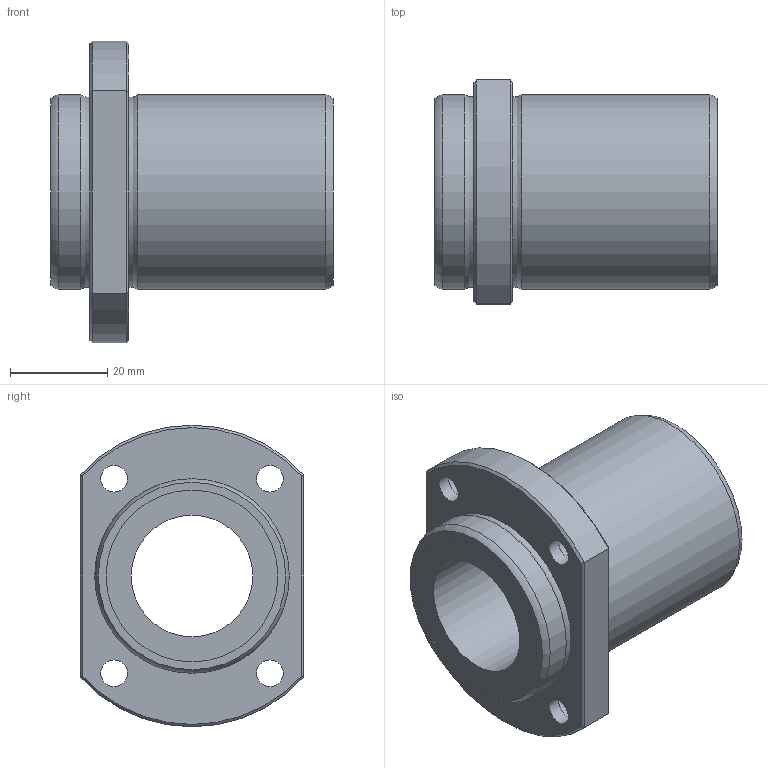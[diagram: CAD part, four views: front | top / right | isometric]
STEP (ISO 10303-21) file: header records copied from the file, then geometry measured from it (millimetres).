
FILE_DESCRIPTION((''),'2;1');
FILE_NAME('D:\製品 (図面)\カタログ用3D\リニアベアリング関連\STEP形式\LFTB\LFTB25.stp','2010-06-04T09:26:33',('Tsuchiya'),(''),'Autodesk Inventor 10','Autodesk Inventor 10','');
FILE_SCHEMA(('AUTOMOTIVE_DESIGN { 1 0 10303 214 1 1 1 1 }'));
Length unit declared in the file: millimetre
Products named in the file (1): LFTB25
Bounding box: 58 x 46 x 62 mm (x, y, z)
Volume: 52825.1 mm3; surface area: 16956 mm2
Topology: 1 solids, 1 shells, 39 faces, 75 edges, 46 vertices
Faces by surface type: bspline 14, plane 12, cylinder 7, cone 4, torus 2
Full cylindrical faces by diameter (mm): 25 x1, 35.3 x2, 40 x2
Entity records: 1177 total; most frequent: CARTESIAN_POINT 440, DIRECTION 140, ORIENTED_EDGE 116, EDGE_LOOP 74, AXIS2_PLACEMENT_3D 64, EDGE_CURVE 58, VERTEX_POINT 46, FACE_OUTER_BOUND 39
